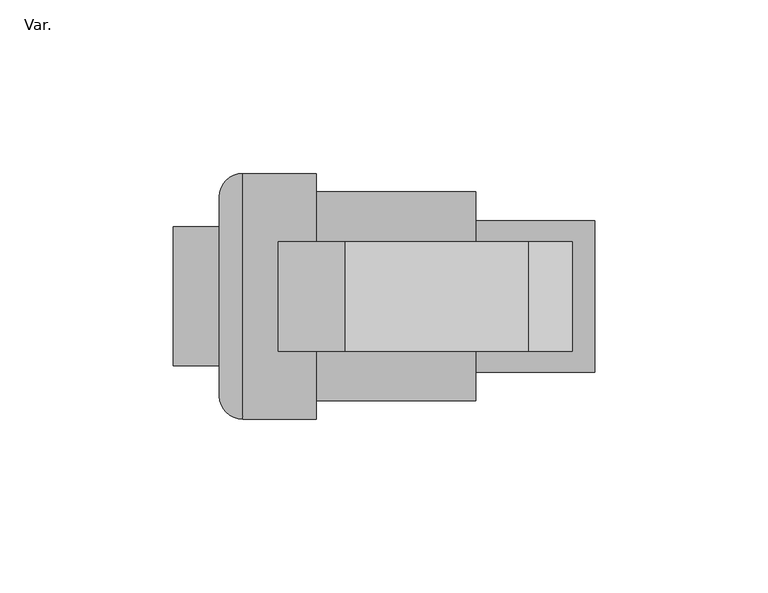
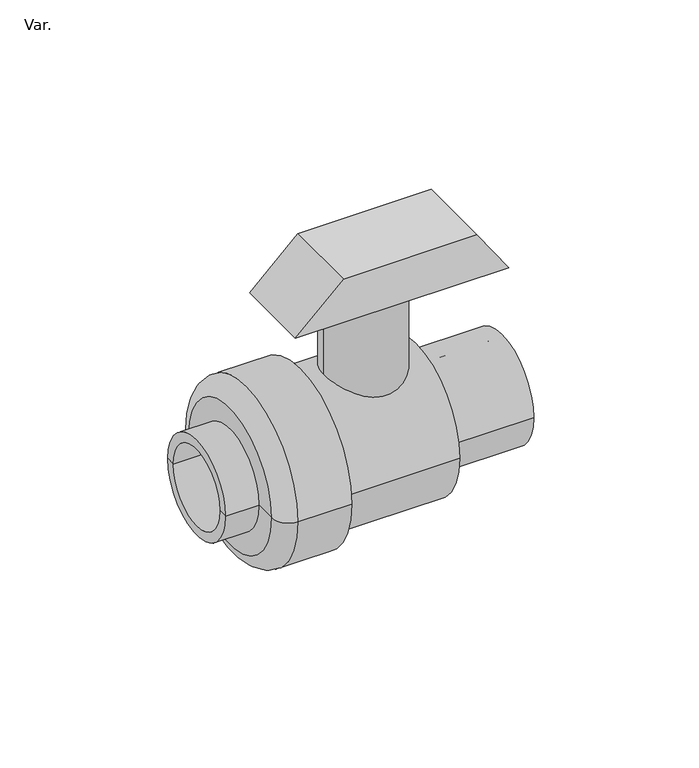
"""IFC4 building model written with IfcOpenShell, lengths in millimetres: pipe fitting geometry, PlastigamaWavin_Unionesdetubería_PresiónPVC_VálvulaBola20mm-90mm : Var.."""

from ifc_helpers import new_model, si_unit, point, frame, frame_2d, origin, origin_with_axes, place, context, project, spatial, polyline, circle_curve, ellipse_curve, trimmed, segment, composite_curve, outline, extrude, source, transform, mapped, element, save
from ifc_brep_helpers import plane_surface, cylinder_surface, revolved_surface, advanced_brep


def var_ca1771e9(model_context):
    return source(origin(), model_context, "Body", "SolidModel", [
        extrude(outline(polyline([(61.7, -106.5026442), (61.7, -21.6526442), (79.8261557, -34.3447151), (79.8261557, -87.300279), (61.7, -106.5026442)])), frame((0.0, -15.775, 0.0), z_axis=(0.0, 1.0, 0.0), x_axis=(0.0, 0.0, 1.0)), (0.0, 0.0, 1.0), 31.55),
        extrude(outline(composite_curve([segment(trimmed(circle_curve(frame_2d((-70.4026442, 0.0)), 15.775), [point((-86.1776442, 0.0))], [point((-54.6276442, 0.0))], False, "CARTESIAN"), True, "CONTINUOUS"), segment(trimmed(circle_curve(frame_2d((-70.4026442, 0.0)), 15.775), [point((-54.6276442, 0.0))], [point((-86.1776442, 0.0))], False, "CARTESIAN"), True, "CONTINUOUS")], self_intersect=False)), origin_with_axes(), (0.0, 0.0, 1.0), 61.7),
        advanced_brep(
        [(-112.8026442, -16.15, 0.0), (-112.8026442, 16.15, 0.0), (-136.6526442, 16.15, 0.0), (-136.6526442, -16.15, 0.0), (-112.8026442, 0.0, 0.0), (-49.5526442, -16.15, 0.0), (-49.5526442, 16.15, 0.0), (-49.5526442, 0.0, 0.0), (-15.3026442, -16.15, 0.0), (-15.3026442, 16.15, 0.0), (-15.3026442, -21.81, 0.0), (-15.3026442, 21.81, 0.0), (-49.5526442, -21.81, 0.0), (-49.5526442, 21.81, 0.0), (-49.5526442, -30.09, 0.0), (-49.5526442, 30.09, 0.0), (-95.4526442, -30.09, 0.0), (-95.4526442, 30.09, 0.0), (-95.4526442, -35.4, 0.0), (-95.4526442, 35.4, 0.0), (-116.7478823, -35.4, 0.0), (-116.7478823, 35.4, 0.0), (-123.4026442, -28.7452381, 0.0), (-123.4026442, 28.7452381, 0.0), (-123.4026442, -20.05, 0.0), (-123.4026442, 20.05, 0.0), (-136.6526442, -20.05, 0.0), (-136.6526442, 20.05, 0.0)],
        [
            (0, 1, circle_curve(frame((-112.8026442, 0.0, 0.0), z_axis=(1.0, 0.0, 0.0), x_axis=(0.0, 1.0, 0.0)), 16.15)),
            (1, 2),
            (2, 3, circle_curve(frame((-136.6526442, 0.0, 0.0), z_axis=(-1.0, 0.0, 0.0), x_axis=(0.0, 1.0, 0.0)), 16.15)),
            (3, 0),
            (1, 0, circle_curve(frame((-112.8026442, 0.0, 0.0), z_axis=(1.0, 0.0, 0.0), x_axis=(0.0, 1.0, 0.0)), 16.15)),
            (3, 2, circle_curve(frame((-136.6526442, 0.0, 0.0), z_axis=(-1.0, 0.0, 0.0), x_axis=(0.0, 1.0, 0.0)), 16.15)),
            (4, 1),
            (0, 4),
            (5, 6, circle_curve(frame((-49.5526442, 0.0, 0.0), z_axis=(1.0, 0.0, 0.0), x_axis=(0.0, 1.0, 0.0)), 16.15)),
            (6, 7),
            (7, 5),
            (6, 5, circle_curve(frame((-49.5526442, 0.0, 0.0), z_axis=(1.0, 0.0, 0.0), x_axis=(0.0, 1.0, 0.0)), 16.15)),
            (8, 9, circle_curve(frame((-15.3026442, 0.0, 0.0), z_axis=(1.0, 0.0, 0.0), x_axis=(0.0, 1.0, 0.0)), 16.15)),
            (9, 6),
            (5, 8),
            (9, 8, circle_curve(frame((-15.3026442, 0.0, 0.0), z_axis=(1.0, 0.0, 0.0), x_axis=(0.0, 1.0, 0.0)), 16.15)),
            (10, 11, circle_curve(frame((-15.3026442, 0.0, 0.0), z_axis=(1.0, 0.0, 0.0), x_axis=(0.0, 1.0, 0.0)), 21.81)),
            (11, 9),
            (8, 10),
            (11, 10, circle_curve(frame((-15.3026442, 0.0, 0.0), z_axis=(1.0, 0.0, 0.0), x_axis=(0.0, 1.0, 0.0)), 21.81)),
            (12, 13, circle_curve(frame((-49.5526442, 0.0, 0.0), z_axis=(1.0, 0.0, 0.0), x_axis=(0.0, 1.0, 0.0)), 21.81)),
            (13, 11),
            (10, 12),
            (13, 12, circle_curve(frame((-49.5526442, 0.0, 0.0), z_axis=(1.0, 0.0, 0.0), x_axis=(0.0, 1.0, 0.0)), 21.81)),
            (14, 15, circle_curve(frame((-49.5526442, 0.0, 0.0), z_axis=(1.0, 0.0, 0.0), x_axis=(0.0, 1.0, 0.0)), 30.09)),
            (15, 13),
            (12, 14),
            (15, 14, circle_curve(frame((-49.5526442, 0.0, 0.0), z_axis=(1.0, 0.0, 0.0), x_axis=(0.0, 1.0, 0.0)), 30.09)),
            (16, 17, circle_curve(frame((-95.4526442, 0.0, 0.0), z_axis=(1.0, 0.0, 0.0), x_axis=(0.0, 1.0, 0.0)), 30.09)),
            (17, 15),
            (14, 16),
            (17, 16, circle_curve(frame((-95.4526442, 0.0, 0.0), z_axis=(1.0, 0.0, 0.0), x_axis=(0.0, 1.0, 0.0)), 30.09)),
            (18, 19, circle_curve(frame((-95.4526442, 0.0, 0.0), z_axis=(1.0, 0.0, 0.0), x_axis=(0.0, 1.0, 0.0)), 35.4)),
            (19, 17),
            (16, 18),
            (19, 18, circle_curve(frame((-95.4526442, 0.0, 0.0), z_axis=(1.0, 0.0, 0.0), x_axis=(0.0, 1.0, 0.0)), 35.4)),
            (20, 21, circle_curve(frame((-116.7478823, 0.0, 0.0), z_axis=(1.0, 0.0, 0.0), x_axis=(0.0, 1.0, 0.0)), 35.4)),
            (21, 19),
            (18, 20),
            (21, 20, circle_curve(frame((-116.7478823, 0.0, 0.0), z_axis=(1.0, 0.0, 0.0), x_axis=(0.0, 1.0, 0.0)), 35.4)),
            (22, 23, circle_curve(frame((-123.4026442, 0.0, 0.0), z_axis=(1.0, 0.0, 0.0), x_axis=(0.0, 1.0, 0.0)), 28.7452381)),
            (23, 21, circle_curve(frame((-116.7478823, 28.7452381, 0.0), z_axis=(0.0, 0.0, -1.0), x_axis=(1.0, 0.0, 0.0)), 6.6547619)),
            (20, 22, circle_curve(frame((-116.7478823, -28.7452381, 0.0), z_axis=(0.0, 0.0, -1.0), x_axis=(1.0, 0.0, 0.0)), 6.6547619)),
            (23, 22, circle_curve(frame((-123.4026442, 0.0, 0.0), z_axis=(1.0, 0.0, 0.0), x_axis=(0.0, 1.0, 0.0)), 28.7452381)),
            (24, 25, circle_curve(frame((-123.4026442, 0.0, 0.0), z_axis=(1.0, 0.0, 0.0), x_axis=(0.0, 1.0, 0.0)), 20.05)),
            (25, 23),
            (22, 24),
            (25, 24, circle_curve(frame((-123.4026442, 0.0, 0.0), z_axis=(1.0, 0.0, 0.0), x_axis=(0.0, 1.0, 0.0)), 20.05)),
            (26, 27, circle_curve(frame((-136.6526442, 0.0, 0.0), z_axis=(1.0, 0.0, 0.0), x_axis=(0.0, 1.0, 0.0)), 20.05)),
            (27, 25),
            (24, 26),
            (27, 26, circle_curve(frame((-136.6526442, 0.0, 0.0), z_axis=(1.0, 0.0, 0.0), x_axis=(0.0, 1.0, 0.0)), 20.05)),
            (2, 27),
            (26, 3),
        ],
        [
            revolved_surface(polyline([(-136.65264419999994, 16.15, 0.0), (-112.80264420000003, 16.15, 0.0)]), (-2066.1526442, 0.0, 0.0), (-1.0, 0.0, 0.0)),
            plane_surface(frame((-112.8026442, 0.0, 0.0), z_axis=(-1.0, 0.0, 0.0), x_axis=(0.0, 1.0, 0.0))),
            plane_surface(frame((-49.5526442, 0.0, 0.0), z_axis=(1.0, 0.0, 0.0), x_axis=(0.0, 1.0, 0.0))),
            revolved_surface(polyline([(-49.55264420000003, 16.15, 0.0), (-15.302644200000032, 16.15, 0.0)]), (-2066.1526442, 0.0, 0.0), (-1.0, 0.0, 0.0)),
            plane_surface(frame((-15.3026442, 0.0, 0.0), z_axis=(1.0, 0.0, 0.0), x_axis=(0.0, 1.0, 0.0))),
            cylinder_surface(frame((-2066.1526442, 0.0, 0.0), z_axis=(-1.0, 0.0, 0.0), x_axis=(0.0, 1.0, 0.0)), 21.81),
            cylinder_surface(frame((-2066.1526442, 0.0, 0.0), z_axis=(-1.0, 0.0, 0.0), x_axis=(0.0, 1.0, 0.0)), 30.09),
            plane_surface(frame((-95.4526442, 0.0, 0.0), z_axis=(1.0, 0.0, 0.0), x_axis=(0.0, 1.0, 0.0))),
            cylinder_surface(frame((-2066.1526442, 0.0, 0.0), z_axis=(-1.0, 0.0, 0.0), x_axis=(0.0, 1.0, 0.0)), 35.4),
            revolved_surface(trimmed(ellipse_curve(frame((-116.7478823, 28.7452381, 0.0), z_axis=(0.0, 0.0, 1.0), x_axis=(1.0, 0.0, 0.0)), 6.6547619, 6.6547619), [point((-116.7478823, 35.4, 0.0))], [point((-123.4026442, 28.7452381, 0.0))], True, "CARTESIAN"), (-2066.1526442, 0.0, 0.0), (-1.0, 0.0, 0.0)),
            plane_surface(frame((-123.4026442, 0.0, 0.0), z_axis=(-1.0, 0.0, 0.0), x_axis=(0.0, 1.0, 0.0))),
            cylinder_surface(frame((-2066.1526442, 0.0, 0.0), z_axis=(-1.0, 0.0, 0.0), x_axis=(0.0, 1.0, 0.0)), 20.05),
            plane_surface(frame((-136.6526442, 0.0, 0.0), z_axis=(-1.0, 0.0, 0.0), x_axis=(0.0, 1.0, 0.0))),
        ],
        [
            (0, [[1, 2, 3, 4]]),
            (0, [[5, -4, 6, -2]]),
            (1, [[7, -1, 8]]),
            (1, [[-8, -5, -7]]),
            (2, [[9, 10, 11]]),
            (2, [[12, -11, -10]]),
            (3, [[13, 14, -9, 15]]),
            (3, [[16, -15, -12, -14]]),
            (4, [[17, 18, -13, 19]]),
            (4, [[20, -19, -16, -18]]),
            (5, [[21, 22, -17, 23]]),
            (5, [[24, -23, -20, -22]]),
            (2, [[25, 26, -21, 27]]),
            (2, [[28, -27, -24, -26]]),
            (6, [[29, 30, -25, 31]]),
            (6, [[32, -31, -28, -30]]),
            (7, [[33, 34, -29, 35]]),
            (7, [[36, -35, -32, -34]]),
            (8, [[37, 38, -33, 39]]),
            (8, [[40, -39, -36, -38]]),
            (9, [[41, 42, -37, 43]]),
            (9, [[44, -43, -40, -42]]),
            (10, [[45, 46, -41, 47]]),
            (10, [[48, -47, -44, -46]]),
            (11, [[49, 50, -45, 51]]),
            (11, [[52, -51, -48, -50]]),
            (12, [[-3, 53, -49, 54]]),
            (12, [[-6, -54, -52, -53]]),
        ],
    ),
    ])


if __name__ == "__main__":
    model = new_model("IFC4")
    model_context = context("Model", 3, world=origin())
    ifc_project = project(units=[si_unit("LENGTHUNIT", "METRE", prefix="MILLI")], contexts=[model_context])
    site = spatial("IfcSite", under=ifc_project)
    building = spatial("IfcBuilding", under=site)
    placement = place(None, origin())
    var_shape = var_ca1771e9(model_context)
    element("IfcPipeFitting", 1, ObjectType="PlastigamaWavin_Unionesdetubería_PresiónPVC_VálvulaBola20mm-90mm : Var.", at=placement, inside=building, context=model_context, shape_type="MappedRepresentation", body=[
        mapped(var_shape, transform((0.0, 0.0, 0.0), x_axis=(1.0, 0.0, 0.0), y_axis=(0.0, 1.0, 0.0), z_axis=(0.0, 0.0, 1.0))),
    ])
    save(model, "model.ifc")
